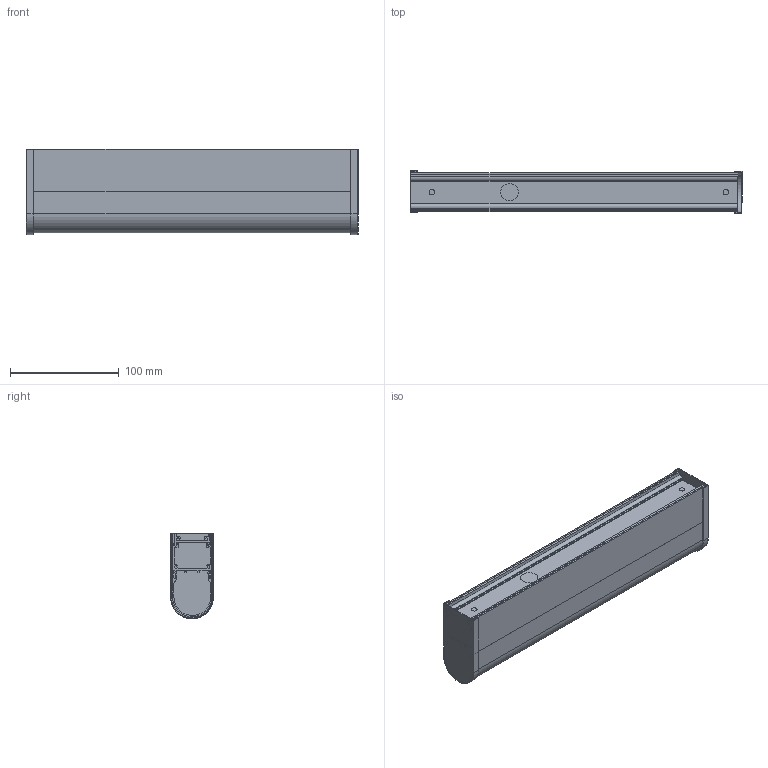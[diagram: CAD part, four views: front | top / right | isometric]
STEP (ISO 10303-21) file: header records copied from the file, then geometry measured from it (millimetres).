
FILE_DESCRIPTION(/* description */ (''),/* implementation_level */ '2;1');
FILE_NAME(/* name */ '63520.step',/* time_stamp */ '2024-05-27T08:47:18+02:00',/* author */ ('RenataManzini'),/* organization */ (''),/* preprocessor_version */ 'ST-DEVELOPER v20',/* originating_system */ 'AutoCAD Mechanical',/* authorisation */ '');
FILE_SCHEMA (('AUTOMOTIVE_DESIGN { 1 0 10303 214 3 1 1 }'));
Length unit declared in the file: millimetre
Products named in the file (2): Product; Pieza_tide - Lamp Holder-700637-_3D_
Assembly tree (1 placements, depth 2):
  Product
    Pieza_tide - Lamp Holder-700637-_3D_
Bounding box: 304.6 x 39 x 78.32 mm (x, y, z)
Volume: 136590.3 mm3; surface area: 208921.3 mm2
Topology: 9 solids, 9 shells, 352 faces, 879 edges, 589 vertices
Faces by surface type: plane 316, cylinder 36
Entity records: 10424 total; most frequent: CARTESIAN_POINT 1852, ORIENTED_EDGE 1752, DIRECTION 1656, EDGE_CURVE 876, LINE 808, VECTOR 808, VERTEX_POINT 584, AXIS2_PLACEMENT_3D 424
